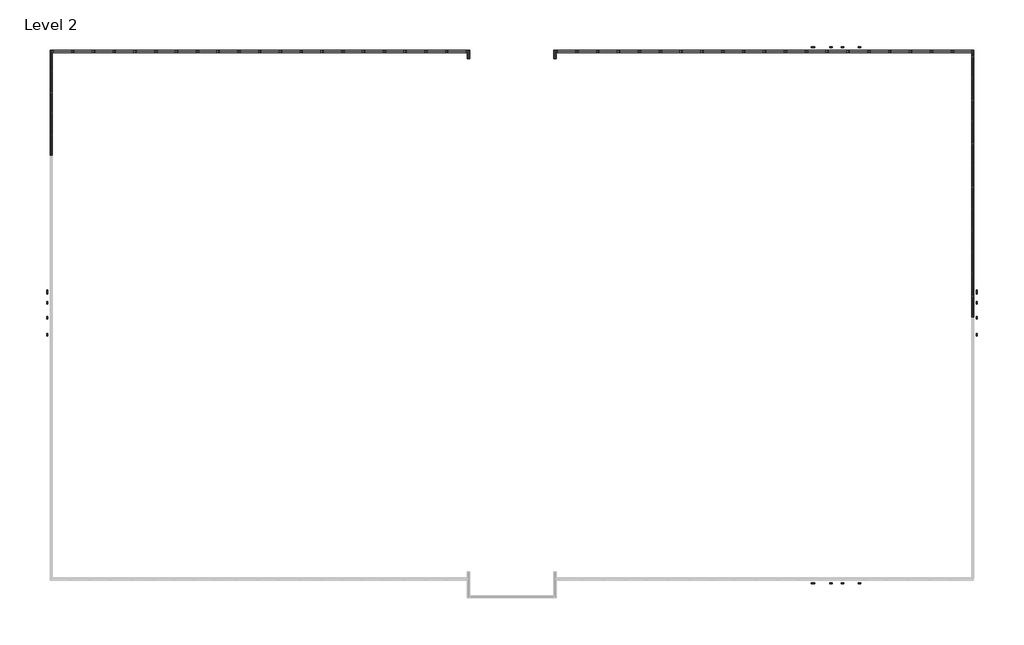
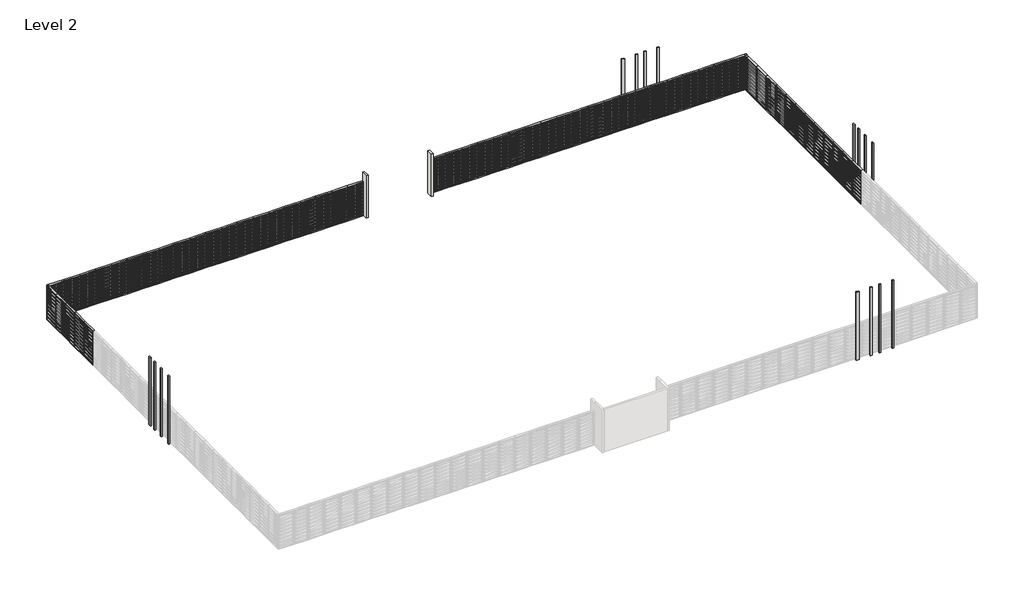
# One storey, part 2 of 2: 58 plates, 16 columns, 2 walls.
"""IFC4 building model written with IfcOpenShell, lengths in millimetres."""

from ifc_helpers import new_model, si_unit, frame, origin, place, context, project, spatial, polyline, outline, extrude, transform, mapped, element, save
from components import curtain_wall_panel_louver_20805_curtain_wall_panel_louver_34a23a9e, curtain_wall_panel_louver_20805_curtain_wall_panel_louver_e35027b3, curtain_wall_panel_louver_20805_curtain_wall_panel_louver_68f3dc09, curtain_wall_panel_louver_20805_curtain_wall_panel_louver_6bef742d, curtain_wall_panel_louver_20805_curtain_wall_panel_louver_6c5e9791

model = new_model("IFC4")

# Units and contexts
model_context = context("Model", 3, world=origin())
ifc_project = project(units=[si_unit("LENGTHUNIT", "METRE", prefix="MILLI")], contexts=[model_context])

# Site, building, storey
site = spatial("IfcSite", under=ifc_project)
building = spatial("IfcBuilding", under=site)
storey = spatial("IfcBuildingStorey", under=building, Name="Level 2", Elevation=6800.0)

# Columns
placement = place(None, origin())
element("IfcColumn", 1, ObjectType="Columns_Rectangular : 200x200", at=placement, inside=storey, context=model_context, shape_type="SweptSolid", body=[
    extrude(outline(polyline([(-90259.8408447, -12768.4199596), (-90259.8408447, -12968.4199596), (-90359.8408447, -12968.4199596), (-90359.8408447, -12768.4199596), (-90259.8408447, -12768.4199596)])), frame((0.0, 0.0, 5800.0), z_axis=(0.0, 0.0, 1.0), x_axis=(1.0, 0.0, 0.0)), (0.0, 0.0, 1.0), 8000.0),
])
element("IfcColumn", 2, ObjectType="Columns_Rectangular : 200x200", at=placement, inside=storey, context=model_context, shape_type="SweptSolid", body=[
    extrude(outline(polyline([(-90259.8408447, -15468.4199596), (-90259.8408447, -15668.4199596), (-90359.8408447, -15668.4199596), (-90359.8408447, -15468.4199596), (-90259.8408447, -15468.4199596)])), frame((0.0, 0.0, 5800.0), z_axis=(0.0, 0.0, 1.0), x_axis=(1.0, 0.0, 0.0)), (0.0, 0.0, 1.0), 8000.0),
])
element("IfcColumn", 3, ObjectType="Columns_Rectangular : 200x200", at=placement, inside=storey, context=model_context, shape_type="SweptSolid", body=[
    extrude(outline(polyline([(-12200.7705062, -12768.4199596), (-12100.7705062, -12768.4199596), (-12100.7705062, -12968.4199596), (-12200.7705062, -12968.4199596), (-12200.7705062, -12768.4199596)])), frame((0.0, 0.0, 5800.0), z_axis=(0.0, 0.0, 1.0), x_axis=(1.0, 0.0, 0.0)), (0.0, 0.0, 1.0), 8000.0),
])
element("IfcColumn", 4, ObjectType="Columns_Rectangular : 200x200", at=placement, inside=storey, context=model_context, shape_type="SweptSolid", body=[
    extrude(outline(polyline([(-12200.7705062, -15468.4199596), (-12100.7705062, -15468.4199596), (-12100.7705062, -15668.4199596), (-12200.7705062, -15668.4199596), (-12200.7705062, -15468.4199596)])), frame((0.0, 0.0, 5800.0), z_axis=(0.0, 0.0, 1.0), x_axis=(1.0, 0.0, 0.0)), (0.0, 0.0, 1.0), 8000.0),
])
element("IfcColumn", 5, ObjectType="Columns_Rectangular : 200x200", at=placement, inside=storey, context=model_context, shape_type="SweptSolid", body=[
    extrude(outline(polyline([(-24516.5322209, -36408.8343034), (-24316.5322209, -36408.8343034), (-24316.5322209, -36508.8343034), (-24516.5322209, -36508.8343034), (-24516.5322209, -36408.8343034)])), frame((0.0, 0.0, 5800.0), z_axis=(0.0, 0.0, 1.0), x_axis=(1.0, 0.0, 0.0)), (0.0, 0.0, 1.0), 8000.0),
])
element("IfcColumn", 6, ObjectType="Columns_Rectangular : 200x200", at=placement, inside=storey, context=model_context, shape_type="SweptSolid", body=[
    extrude(outline(polyline([(-22116.5322209, -36408.8343034), (-21916.5322209, -36408.8343034), (-21916.5322209, -36508.8343034), (-22116.5322209, -36508.8343034), (-22116.5322209, -36408.8343034)])), frame((0.0, 0.0, 5800.0), z_axis=(0.0, 0.0, 1.0), x_axis=(1.0, 0.0, 0.0)), (0.0, 0.0, 1.0), 8000.0),
])
element("IfcColumn", 7, ObjectType="Columns_Rectangular : 200x200", at=placement, inside=storey, context=model_context, shape_type="SweptSolid", body=[
    extrude(outline(polyline([(-24516.5322209, 8596.9943842), (-24516.5322209, 8696.9943842), (-24316.5322209, 8696.9943842), (-24316.5322209, 8596.9943842), (-24516.5322209, 8596.9943842)])), frame((0.0, 0.0, 5800.0), z_axis=(0.0, 0.0, 1.0), x_axis=(1.0, 0.0, 0.0)), (0.0, 0.0, 1.0), 8000.0),
])
element("IfcColumn", 8, ObjectType="Columns_Rectangular : 200x200", at=placement, inside=storey, context=model_context, shape_type="SweptSolid", body=[
    extrude(outline(polyline([(-22116.5322209, 8596.9943842), (-22116.5322209, 8696.9943842), (-21916.5322209, 8696.9943842), (-21916.5322209, 8596.9943842), (-22116.5322209, 8596.9943842)])), frame((0.0, 0.0, 5800.0), z_axis=(0.0, 0.0, 1.0), x_axis=(1.0, 0.0, 0.0)), (0.0, 0.0, 1.0), 8000.0),
])
element("IfcColumn", 9, ObjectType="Columns_Rectangular : 200x200 white", at=placement, inside=storey, context=model_context, shape_type="SweptSolid", body=[
    extrude(outline(polyline([(-90259.8408447, -14024.7842807), (-90259.8408447, -14224.7842807), (-90359.8408447, -14224.7842807), (-90359.8408447, -14024.7842807), (-90259.8408447, -14024.7842807)])), frame((0.0, 0.0, 5800.0), z_axis=(0.0, 0.0, 1.0), x_axis=(1.0, 0.0, 0.0)), (0.0, 0.0, 1.0), 8000.0),
])
element("IfcColumn", 10, ObjectType="Columns_Rectangular : 200x200 white", at=placement, inside=storey, context=model_context, shape_type="SweptSolid", body=[
    extrude(outline(polyline([(-12200.7705062, -14024.7842807), (-12100.7705062, -14024.7842807), (-12100.7705062, -14224.7842807), (-12200.7705062, -14224.7842807), (-12200.7705062, -14024.7842807)])), frame((0.0, 0.0, 5800.0), z_axis=(0.0, 0.0, 1.0), x_axis=(1.0, 0.0, 0.0)), (0.0, 0.0, 1.0), 8000.0),
])
element("IfcColumn", 11, ObjectType="Columns_Rectangular : 200x200 white", at=placement, inside=storey, context=model_context, shape_type="SweptSolid", body=[
    extrude(outline(polyline([(-23560.1678999, -36408.8343034), (-23360.1678999, -36408.8343034), (-23360.1678999, -36508.8343034), (-23560.1678999, -36508.8343034), (-23560.1678999, -36408.8343034)])), frame((0.0, 0.0, 5800.0), z_axis=(0.0, 0.0, 1.0), x_axis=(1.0, 0.0, 0.0)), (0.0, 0.0, 1.0), 8000.0),
])
element("IfcColumn", 12, ObjectType="Columns_Rectangular : 200x200 white", at=placement, inside=storey, context=model_context, shape_type="SweptSolid", body=[
    extrude(outline(polyline([(-23560.1678999, 8596.9943842), (-23560.1678999, 8696.9943842), (-23360.1678999, 8696.9943842), (-23360.1678999, 8596.9943842), (-23560.1678999, 8596.9943842)])), frame((0.0, 0.0, 5800.0), z_axis=(0.0, 0.0, 1.0), x_axis=(1.0, 0.0, 0.0)), (0.0, 0.0, 1.0), 8000.0),
])
element("IfcColumn", 13, ObjectType="Columns_Rectangular : 300x300", at=placement, inside=storey, context=model_context, shape_type="SweptSolid", body=[
    extrude(outline(polyline([(-90259.8408447, -11808.892235), (-90259.8408447, -12108.892235), (-90359.8408447, -12108.892235), (-90359.8408447, -11808.892235), (-90259.8408447, -11808.892235)])), frame((0.0, 0.0, 5800.0), z_axis=(0.0, 0.0, 1.0), x_axis=(1.0, 0.0, 0.0)), (0.0, 0.0, 1.0), 8000.0),
])
element("IfcColumn", 14, ObjectType="Columns_Rectangular : 300x300", at=placement, inside=storey, context=model_context, shape_type="SweptSolid", body=[
    extrude(outline(polyline([(-12200.7705062, -11808.892235), (-12100.7705062, -11808.892235), (-12100.7705062, -12108.892235), (-12200.7705062, -12108.892235), (-12200.7705062, -11808.892235)])), frame((0.0, 0.0, 5800.0), z_axis=(0.0, 0.0, 1.0), x_axis=(1.0, 0.0, 0.0)), (0.0, 0.0, 1.0), 8000.0),
])
element("IfcColumn", 15, ObjectType="Columns_Rectangular : 300x300", at=placement, inside=storey, context=model_context, shape_type="SweptSolid", body=[
    extrude(outline(polyline([(-26076.0599455, -36408.8343034), (-25776.0599455, -36408.8343034), (-25776.0599455, -36508.8343034), (-26076.0599455, -36508.8343034), (-26076.0599455, -36408.8343034)])), frame((0.0, 0.0, 5800.0), z_axis=(0.0, 0.0, 1.0), x_axis=(1.0, 0.0, 0.0)), (0.0, 0.0, 1.0), 8000.0),
])
element("IfcColumn", 16, ObjectType="Columns_Rectangular : 300x300", at=placement, inside=storey, context=model_context, shape_type="SweptSolid", body=[
    extrude(outline(polyline([(-26076.0599455, 8596.9943842), (-26076.0599455, 8696.9943842), (-25776.0599455, 8696.9943842), (-25776.0599455, 8596.9943842), (-26076.0599455, 8596.9943842)])), frame((0.0, 0.0, 5800.0), z_axis=(0.0, 0.0, 1.0), x_axis=(1.0, 0.0, 0.0)), (0.0, 0.0, 1.0), 8000.0),
])

# Plates
curtain_wall_panel_louver_20805_curtain_wall_panel_louver_shape = curtain_wall_panel_louver_20805_curtain_wall_panel_louver_34a23a9e(model_context)
element("IfcPlate", 17, ObjectType="Curtain_wall_panel_-_Louver_20805 : Curtain_wall_panel_-_Louver_20805", at=placement, inside=storey, context=model_context, shape_type="MappedRepresentation", body=[
    mapped(curtain_wall_panel_louver_20805_curtain_wall_panel_louver_shape, transform((-12400.7705062, -13173.6699593, 5800.0), x_axis=(0.0, 1.0, 0.0), y_axis=(-1.0, 0.0, 0.0), z_axis=(0.0, 0.0, 1.0))),
])
element("IfcPlate", 18, ObjectType="Curtain_wall_panel_-_Louver_20805 : Curtain_wall_panel_-_Louver_20805", at=placement, inside=storey, context=model_context, shape_type="MappedRepresentation", body=[
    mapped(curtain_wall_panel_louver_20805_curtain_wall_panel_louver_shape, transform((-12400.7705062, -11343.6699593, 5800.0), x_axis=(0.0, 1.0, 0.0), y_axis=(-1.0, 0.0, 0.0), z_axis=(0.0, 0.0, 1.0))),
])
element("IfcPlate", 19, ObjectType="Curtain_wall_panel_-_Louver_20805 : Curtain_wall_panel_-_Louver_20805", at=placement, inside=storey, context=model_context, shape_type="MappedRepresentation", body=[
    mapped(curtain_wall_panel_louver_20805_curtain_wall_panel_louver_shape, transform((-12400.7705062, -9513.6699593, 5800.0), x_axis=(0.0, 1.0, 0.0), y_axis=(-1.0, 0.0, 0.0), z_axis=(0.0, 0.0, 1.0))),
])
element("IfcPlate", 20, ObjectType="Curtain_wall_panel_-_Louver_20805 : Curtain_wall_panel_-_Louver_20805", at=placement, inside=storey, context=model_context, shape_type="MappedRepresentation", body=[
    mapped(curtain_wall_panel_louver_20805_curtain_wall_panel_louver_shape, transform((-12400.7705062, -7683.6699593, 5800.0), x_axis=(0.0, 1.0, 0.0), y_axis=(-1.0, 0.0, 0.0), z_axis=(0.0, 0.0, 1.0))),
])
element("IfcPlate", 21, ObjectType="Curtain_wall_panel_-_Louver_20805 : Curtain_wall_panel_-_Louver_20805", at=placement, inside=storey, context=model_context, shape_type="MappedRepresentation", body=[
    mapped(curtain_wall_panel_louver_20805_curtain_wall_panel_louver_shape, transform((-12400.7705062, -5853.6699593, 5800.0), x_axis=(0.0, 1.0, 0.0), y_axis=(-1.0, 0.0, 0.0), z_axis=(0.0, 0.0, 1.0))),
])
element("IfcPlate", 22, ObjectType="Curtain_wall_panel_-_Louver_20805 : Curtain_wall_panel_-_Louver_20805", at=placement, inside=storey, context=model_context, shape_type="MappedRepresentation", body=[
    mapped(curtain_wall_panel_louver_20805_curtain_wall_panel_louver_shape, transform((-12400.7705062, -4023.6699593, 5800.0), x_axis=(0.0, 1.0, 0.0), y_axis=(-1.0, 0.0, 0.0), z_axis=(0.0, 0.0, 1.0))),
])
element("IfcPlate", 23, ObjectType="Curtain_wall_panel_-_Louver_20805 : Curtain_wall_panel_-_Louver_20805", at=placement, inside=storey, context=model_context, shape_type="MappedRepresentation", body=[
    mapped(curtain_wall_panel_louver_20805_curtain_wall_panel_louver_shape, transform((-12400.7705062, -2193.6699593, 5800.0), x_axis=(0.0, 1.0, 0.0), y_axis=(-1.0, 0.0, 0.0), z_axis=(0.0, 0.0, 1.0))),
])
element("IfcPlate", 24, ObjectType="Curtain_wall_panel_-_Louver_20805 : Curtain_wall_panel_-_Louver_20805", at=placement, inside=storey, context=model_context, shape_type="MappedRepresentation", body=[
    mapped(curtain_wall_panel_louver_20805_curtain_wall_panel_louver_shape, transform((-12400.7705062, -363.6699593, 5800.0), x_axis=(0.0, 1.0, 0.0), y_axis=(-1.0, 0.0, 0.0), z_axis=(0.0, 0.0, 1.0))),
])
element("IfcPlate", 25, ObjectType="Curtain_wall_panel_-_Louver_20805 : Curtain_wall_panel_-_Louver_20805", at=placement, inside=storey, context=model_context, shape_type="MappedRepresentation", body=[
    mapped(curtain_wall_panel_louver_20805_curtain_wall_panel_louver_shape, transform((-12400.7705062, 1466.3300407, 5800.0), x_axis=(0.0, 1.0, 0.0), y_axis=(-1.0, 0.0, 0.0), z_axis=(0.0, 0.0, 1.0))),
])
element("IfcPlate", 26, ObjectType="Curtain_wall_panel_-_Louver_20805 : Curtain_wall_panel_-_Louver_20805", at=placement, inside=storey, context=model_context, shape_type="MappedRepresentation", body=[
    mapped(curtain_wall_panel_louver_20805_curtain_wall_panel_louver_shape, transform((-12400.7705062, 3296.3300407, 5800.0), x_axis=(0.0, 1.0, 0.0), y_axis=(-1.0, 0.0, 0.0), z_axis=(0.0, 0.0, 1.0))),
])
element("IfcPlate", 27, ObjectType="Curtain_wall_panel_-_Louver_20805 : Curtain_wall_panel_-_Louver_20805", at=placement, inside=storey, context=model_context, shape_type="MappedRepresentation", body=[
    mapped(curtain_wall_panel_louver_20805_curtain_wall_panel_louver_shape, transform((-12400.7705062, 5126.3300407, 5800.0), x_axis=(0.0, 1.0, 0.0), y_axis=(-1.0, 0.0, 0.0), z_axis=(0.0, 0.0, 1.0))),
])
element("IfcPlate", 28, ObjectType="Curtain_wall_panel_-_Louver_20805 : Curtain_wall_panel_-_Louver_20805", at=placement, inside=storey, context=model_context, shape_type="MappedRepresentation", body=[
    mapped(curtain_wall_panel_louver_20805_curtain_wall_panel_louver_shape, transform((-12400.7705062, 6956.3300407, 5800.0), x_axis=(0.0, 1.0, 0.0), y_axis=(-1.0, 0.0, 0.0), z_axis=(0.0, 0.0, 1.0))),
])
curtain_wall_panel_louver_20805_curtain_wall_panel_louver_2_shape = curtain_wall_panel_louver_20805_curtain_wall_panel_louver_e35027b3(model_context)
element("IfcPlate", 29, ObjectType="Curtain_wall_panel_-_Louver_20805 : Curtain_wall_panel_-_Louver_20805", at=placement, inside=storey, context=model_context, shape_type="MappedRepresentation", body=[
    mapped(curtain_wall_panel_louver_20805_curtain_wall_panel_louver_2_shape, transform((-12400.7705062, 8132.7050405, 5800.0), x_axis=(0.0, 1.0, 0.0), y_axis=(-1.0, 0.0, 0.0), z_axis=(0.0, 0.0, 1.0))),
])
curtain_wall_panel_louver_20805_curtain_wall_panel_louver_3_shape = curtain_wall_panel_louver_20805_curtain_wall_panel_louver_68f3dc09(model_context)
element("IfcPlate", 30, ObjectType="Curtain_wall_panel_-_Louver_20805 : Curtain_wall_panel_-_Louver_20805", at=placement, inside=storey, context=model_context, shape_type="MappedRepresentation", body=[
    mapped(curtain_wall_panel_louver_20805_curtain_wall_panel_louver_3_shape, transform((-90059.8408447, 394.3850404, 5800.0), x_axis=(0.0, 1.0, 0.0), y_axis=(-1.0, 0.0, 0.0), z_axis=(0.0, 0.0, 1.0))),
])
element("IfcPlate", 31, ObjectType="Curtain_wall_panel_-_Louver_20805 : Curtain_wall_panel_-_Louver_20805", at=placement, inside=storey, context=model_context, shape_type="MappedRepresentation", body=[
    mapped(curtain_wall_panel_louver_20805_curtain_wall_panel_louver_3_shape, transform((-90059.8408447, 2172.0950404, 5800.0), x_axis=(0.0, 1.0, 0.0), y_axis=(-1.0, 0.0, 0.0), z_axis=(0.0, 0.0, 1.0))),
])
element("IfcPlate", 32, ObjectType="Curtain_wall_panel_-_Louver_20805 : Curtain_wall_panel_-_Louver_20805", at=placement, inside=storey, context=model_context, shape_type="MappedRepresentation", body=[
    mapped(curtain_wall_panel_louver_20805_curtain_wall_panel_louver_3_shape, transform((-90059.8408447, 3949.8050404, 5800.0), x_axis=(0.0, 1.0, 0.0), y_axis=(-1.0, 0.0, 0.0), z_axis=(0.0, 0.0, 1.0))),
])
element("IfcPlate", 33, ObjectType="Curtain_wall_panel_-_Louver_20805 : Curtain_wall_panel_-_Louver_20805", at=placement, inside=storey, context=model_context, shape_type="MappedRepresentation", body=[
    mapped(curtain_wall_panel_louver_20805_curtain_wall_panel_louver_3_shape, transform((-90059.8408447, 5727.5150404, 5800.0), x_axis=(0.0, 1.0, 0.0), y_axis=(-1.0, 0.0, 0.0), z_axis=(0.0, 0.0, 1.0))),
])
element("IfcPlate", 34, ObjectType="Curtain_wall_panel_-_Louver_20805 : Curtain_wall_panel_-_Louver_20805", at=placement, inside=storey, context=model_context, shape_type="MappedRepresentation", body=[
    mapped(curtain_wall_panel_louver_20805_curtain_wall_panel_louver_3_shape, transform((-90059.8408447, 7505.2250404, 5800.0), x_axis=(0.0, 1.0, 0.0), y_axis=(-1.0, 0.0, 0.0), z_axis=(0.0, 0.0, 1.0))),
])
curtain_wall_panel_louver_20805_curtain_wall_panel_louver_4_shape = curtain_wall_panel_louver_20805_curtain_wall_panel_louver_6bef742d(model_context)
element("IfcPlate", 35, ObjectType="Curtain_wall_panel_-_Louver_20805 : Curtain_wall_panel_-_Louver_20805", at=placement, inside=storey, context=model_context, shape_type="MappedRepresentation", body=[
    mapped(curtain_wall_panel_louver_20805_curtain_wall_panel_louver_4_shape, transform((-89029.3524655, 8394.0800404, 5800.0), x_axis=(1.0, 0.0, 0.0), y_axis=(0.0, 1.0, 0.0), z_axis=(0.0, 0.0, 1.0))),
])
element("IfcPlate", 36, ObjectType="Curtain_wall_panel_-_Louver_20805 : Curtain_wall_panel_-_Louver_20805", at=placement, inside=storey, context=model_context, shape_type="MappedRepresentation", body=[
    mapped(curtain_wall_panel_louver_20805_curtain_wall_panel_louver_4_shape, transform((-87282.875707, 8394.0800404, 5800.0), x_axis=(1.0, 0.0, 0.0), y_axis=(0.0, 1.0, 0.0), z_axis=(0.0, 0.0, 1.0))),
])
element("IfcPlate", 37, ObjectType="Curtain_wall_panel_-_Louver_20805 : Curtain_wall_panel_-_Louver_20805", at=placement, inside=storey, context=model_context, shape_type="MappedRepresentation", body=[
    mapped(curtain_wall_panel_louver_20805_curtain_wall_panel_louver_4_shape, transform((-85536.3989486, 8394.0800404, 5800.0), x_axis=(1.0, 0.0, 0.0), y_axis=(0.0, 1.0, 0.0), z_axis=(0.0, 0.0, 1.0))),
])
element("IfcPlate", 38, ObjectType="Curtain_wall_panel_-_Louver_20805 : Curtain_wall_panel_-_Louver_20805", at=placement, inside=storey, context=model_context, shape_type="MappedRepresentation", body=[
    mapped(curtain_wall_panel_louver_20805_curtain_wall_panel_louver_4_shape, transform((-83789.9221901, 8394.0800404, 5800.0), x_axis=(1.0, 0.0, 0.0), y_axis=(0.0, 1.0, 0.0), z_axis=(0.0, 0.0, 1.0))),
])
element("IfcPlate", 39, ObjectType="Curtain_wall_panel_-_Louver_20805 : Curtain_wall_panel_-_Louver_20805", at=placement, inside=storey, context=model_context, shape_type="MappedRepresentation", body=[
    mapped(curtain_wall_panel_louver_20805_curtain_wall_panel_louver_4_shape, transform((-82043.4454316, 8394.0800404, 5800.0), x_axis=(1.0, 0.0, 0.0), y_axis=(0.0, 1.0, 0.0), z_axis=(0.0, 0.0, 1.0))),
])
element("IfcPlate", 40, ObjectType="Curtain_wall_panel_-_Louver_20805 : Curtain_wall_panel_-_Louver_20805", at=placement, inside=storey, context=model_context, shape_type="MappedRepresentation", body=[
    mapped(curtain_wall_panel_louver_20805_curtain_wall_panel_louver_4_shape, transform((-80296.9686732, 8394.0800404, 5800.0), x_axis=(1.0, 0.0, 0.0), y_axis=(0.0, 1.0, 0.0), z_axis=(0.0, 0.0, 1.0))),
])
element("IfcPlate", 41, ObjectType="Curtain_wall_panel_-_Louver_20805 : Curtain_wall_panel_-_Louver_20805", at=placement, inside=storey, context=model_context, shape_type="MappedRepresentation", body=[
    mapped(curtain_wall_panel_louver_20805_curtain_wall_panel_louver_4_shape, transform((-78550.4919147, 8394.0800404, 5800.0), x_axis=(1.0, 0.0, 0.0), y_axis=(0.0, 1.0, 0.0), z_axis=(0.0, 0.0, 1.0))),
])
element("IfcPlate", 42, ObjectType="Curtain_wall_panel_-_Louver_20805 : Curtain_wall_panel_-_Louver_20805", at=placement, inside=storey, context=model_context, shape_type="MappedRepresentation", body=[
    mapped(curtain_wall_panel_louver_20805_curtain_wall_panel_louver_4_shape, transform((-76804.0151563, 8394.0800404, 5800.0), x_axis=(1.0, 0.0, 0.0), y_axis=(0.0, 1.0, 0.0), z_axis=(0.0, 0.0, 1.0))),
])
element("IfcPlate", 43, ObjectType="Curtain_wall_panel_-_Louver_20805 : Curtain_wall_panel_-_Louver_20805", at=placement, inside=storey, context=model_context, shape_type="MappedRepresentation", body=[
    mapped(curtain_wall_panel_louver_20805_curtain_wall_panel_louver_4_shape, transform((-75057.5383978, 8394.0800404, 5800.0), x_axis=(1.0, 0.0, 0.0), y_axis=(0.0, 1.0, 0.0), z_axis=(0.0, 0.0, 1.0))),
])
element("IfcPlate", 44, ObjectType="Curtain_wall_panel_-_Louver_20805 : Curtain_wall_panel_-_Louver_20805", at=placement, inside=storey, context=model_context, shape_type="MappedRepresentation", body=[
    mapped(curtain_wall_panel_louver_20805_curtain_wall_panel_louver_4_shape, transform((-73311.0616393, 8394.0800404, 5800.0), x_axis=(1.0, 0.0, 0.0), y_axis=(0.0, 1.0, 0.0), z_axis=(0.0, 0.0, 1.0))),
])
element("IfcPlate", 45, ObjectType="Curtain_wall_panel_-_Louver_20805 : Curtain_wall_panel_-_Louver_20805", at=placement, inside=storey, context=model_context, shape_type="MappedRepresentation", body=[
    mapped(curtain_wall_panel_louver_20805_curtain_wall_panel_louver_4_shape, transform((-71564.5848809, 8394.0800404, 5800.0), x_axis=(1.0, 0.0, 0.0), y_axis=(0.0, 1.0, 0.0), z_axis=(0.0, 0.0, 1.0))),
])
element("IfcPlate", 46, ObjectType="Curtain_wall_panel_-_Louver_20805 : Curtain_wall_panel_-_Louver_20805", at=placement, inside=storey, context=model_context, shape_type="MappedRepresentation", body=[
    mapped(curtain_wall_panel_louver_20805_curtain_wall_panel_louver_4_shape, transform((-69818.1081224, 8394.0800404, 5800.0), x_axis=(1.0, 0.0, 0.0), y_axis=(0.0, 1.0, 0.0), z_axis=(0.0, 0.0, 1.0))),
])
element("IfcPlate", 47, ObjectType="Curtain_wall_panel_-_Louver_20805 : Curtain_wall_panel_-_Louver_20805", at=placement, inside=storey, context=model_context, shape_type="MappedRepresentation", body=[
    mapped(curtain_wall_panel_louver_20805_curtain_wall_panel_louver_4_shape, transform((-68071.6313639, 8394.0800404, 5800.0), x_axis=(1.0, 0.0, 0.0), y_axis=(0.0, 1.0, 0.0), z_axis=(0.0, 0.0, 1.0))),
])
element("IfcPlate", 48, ObjectType="Curtain_wall_panel_-_Louver_20805 : Curtain_wall_panel_-_Louver_20805", at=placement, inside=storey, context=model_context, shape_type="MappedRepresentation", body=[
    mapped(curtain_wall_panel_louver_20805_curtain_wall_panel_louver_4_shape, transform((-66325.1546055, 8394.0800404, 5800.0), x_axis=(1.0, 0.0, 0.0), y_axis=(0.0, 1.0, 0.0), z_axis=(0.0, 0.0, 1.0))),
])
element("IfcPlate", 49, ObjectType="Curtain_wall_panel_-_Louver_20805 : Curtain_wall_panel_-_Louver_20805", at=placement, inside=storey, context=model_context, shape_type="MappedRepresentation", body=[
    mapped(curtain_wall_panel_louver_20805_curtain_wall_panel_louver_4_shape, transform((-64578.677847, 8394.0800404, 5800.0), x_axis=(1.0, 0.0, 0.0), y_axis=(0.0, 1.0, 0.0), z_axis=(0.0, 0.0, 1.0))),
])
element("IfcPlate", 50, ObjectType="Curtain_wall_panel_-_Louver_20805 : Curtain_wall_panel_-_Louver_20805", at=placement, inside=storey, context=model_context, shape_type="MappedRepresentation", body=[
    mapped(curtain_wall_panel_louver_20805_curtain_wall_panel_louver_4_shape, transform((-62832.2010885, 8394.0800404, 5800.0), x_axis=(1.0, 0.0, 0.0), y_axis=(0.0, 1.0, 0.0), z_axis=(0.0, 0.0, 1.0))),
])
element("IfcPlate", 51, ObjectType="Curtain_wall_panel_-_Louver_20805 : Curtain_wall_panel_-_Louver_20805", at=placement, inside=storey, context=model_context, shape_type="MappedRepresentation", body=[
    mapped(curtain_wall_panel_louver_20805_curtain_wall_panel_louver_4_shape, transform((-61085.7243301, 8394.0800404, 5800.0), x_axis=(1.0, 0.0, 0.0), y_axis=(0.0, 1.0, 0.0), z_axis=(0.0, 0.0, 1.0))),
])
element("IfcPlate", 52, ObjectType="Curtain_wall_panel_-_Louver_20805 : Curtain_wall_panel_-_Louver_20805", at=placement, inside=storey, context=model_context, shape_type="MappedRepresentation", body=[
    mapped(curtain_wall_panel_louver_20805_curtain_wall_panel_louver_4_shape, transform((-59339.2475716, 8394.0800404, 5800.0), x_axis=(1.0, 0.0, 0.0), y_axis=(0.0, 1.0, 0.0), z_axis=(0.0, 0.0, 1.0))),
])
element("IfcPlate", 53, ObjectType="Curtain_wall_panel_-_Louver_20805 : Curtain_wall_panel_-_Louver_20805", at=placement, inside=storey, context=model_context, shape_type="MappedRepresentation", body=[
    mapped(curtain_wall_panel_louver_20805_curtain_wall_panel_louver_4_shape, transform((-57592.7708131, 8394.0800404, 5800.0), x_axis=(1.0, 0.0, 0.0), y_axis=(0.0, 1.0, 0.0), z_axis=(0.0, 0.0, 1.0))),
])
element("IfcPlate", 54, ObjectType="Curtain_wall_panel_-_Louver_20805 : Curtain_wall_panel_-_Louver_20805", at=placement, inside=storey, context=model_context, shape_type="MappedRepresentation", body=[
    mapped(curtain_wall_panel_louver_20805_curtain_wall_panel_louver_4_shape, transform((-55846.2940547, 8394.0800404, 5800.0), x_axis=(1.0, 0.0, 0.0), y_axis=(0.0, 1.0, 0.0), z_axis=(0.0, 0.0, 1.0))),
])
curtain_wall_panel_louver_20805_curtain_wall_panel_louver_5_shape = curtain_wall_panel_louver_20805_curtain_wall_panel_louver_6c5e9791(model_context)
element("IfcPlate", 55, ObjectType="Curtain_wall_panel_-_Louver_20805 : Curtain_wall_panel_-_Louver_20805", at=placement, inside=storey, context=model_context, shape_type="MappedRepresentation", body=[
    mapped(curtain_wall_panel_louver_20805_curtain_wall_panel_louver_5_shape, transform((-46653.4985462, 8394.0800404, 5800.0), x_axis=(1.0, 0.0, 0.0), y_axis=(0.0, 1.0, 0.0), z_axis=(0.0, 0.0, 1.0))),
])
element("IfcPlate", 56, ObjectType="Curtain_wall_panel_-_Louver_20805 : Curtain_wall_panel_-_Louver_20805", at=placement, inside=storey, context=model_context, shape_type="MappedRepresentation", body=[
    mapped(curtain_wall_panel_louver_20805_curtain_wall_panel_louver_5_shape, transform((-44899.8842878, 8394.0800404, 5800.0), x_axis=(1.0, 0.0, 0.0), y_axis=(0.0, 1.0, 0.0), z_axis=(0.0, 0.0, 1.0))),
])
element("IfcPlate", 57, ObjectType="Curtain_wall_panel_-_Louver_20805 : Curtain_wall_panel_-_Louver_20805", at=placement, inside=storey, context=model_context, shape_type="MappedRepresentation", body=[
    mapped(curtain_wall_panel_louver_20805_curtain_wall_panel_louver_5_shape, transform((-43146.2700293, 8394.0800404, 5800.0), x_axis=(1.0, 0.0, 0.0), y_axis=(0.0, 1.0, 0.0), z_axis=(0.0, 0.0, 1.0))),
])
element("IfcPlate", 58, ObjectType="Curtain_wall_panel_-_Louver_20805 : Curtain_wall_panel_-_Louver_20805", at=placement, inside=storey, context=model_context, shape_type="MappedRepresentation", body=[
    mapped(curtain_wall_panel_louver_20805_curtain_wall_panel_louver_5_shape, transform((-41392.6557708, 8394.0800404, 5800.0), x_axis=(1.0, 0.0, 0.0), y_axis=(0.0, 1.0, 0.0), z_axis=(0.0, 0.0, 1.0))),
])
element("IfcPlate", 59, ObjectType="Curtain_wall_panel_-_Louver_20805 : Curtain_wall_panel_-_Louver_20805", at=placement, inside=storey, context=model_context, shape_type="MappedRepresentation", body=[
    mapped(curtain_wall_panel_louver_20805_curtain_wall_panel_louver_5_shape, transform((-39639.0415124, 8394.0800404, 5800.0), x_axis=(1.0, 0.0, 0.0), y_axis=(0.0, 1.0, 0.0), z_axis=(0.0, 0.0, 1.0))),
])
element("IfcPlate", 60, ObjectType="Curtain_wall_panel_-_Louver_20805 : Curtain_wall_panel_-_Louver_20805", at=placement, inside=storey, context=model_context, shape_type="MappedRepresentation", body=[
    mapped(curtain_wall_panel_louver_20805_curtain_wall_panel_louver_5_shape, transform((-37885.4272539, 8394.0800404, 5800.0), x_axis=(1.0, 0.0, 0.0), y_axis=(0.0, 1.0, 0.0), z_axis=(0.0, 0.0, 1.0))),
])
element("IfcPlate", 61, ObjectType="Curtain_wall_panel_-_Louver_20805 : Curtain_wall_panel_-_Louver_20805", at=placement, inside=storey, context=model_context, shape_type="MappedRepresentation", body=[
    mapped(curtain_wall_panel_louver_20805_curtain_wall_panel_louver_5_shape, transform((-36131.8129954, 8394.0800404, 5800.0), x_axis=(1.0, 0.0, 0.0), y_axis=(0.0, 1.0, 0.0), z_axis=(0.0, 0.0, 1.0))),
])
element("IfcPlate", 62, ObjectType="Curtain_wall_panel_-_Louver_20805 : Curtain_wall_panel_-_Louver_20805", at=placement, inside=storey, context=model_context, shape_type="MappedRepresentation", body=[
    mapped(curtain_wall_panel_louver_20805_curtain_wall_panel_louver_5_shape, transform((-34378.198737, 8394.0800404, 5800.0), x_axis=(1.0, 0.0, 0.0), y_axis=(0.0, 1.0, 0.0), z_axis=(0.0, 0.0, 1.0))),
])
element("IfcPlate", 63, ObjectType="Curtain_wall_panel_-_Louver_20805 : Curtain_wall_panel_-_Louver_20805", at=placement, inside=storey, context=model_context, shape_type="MappedRepresentation", body=[
    mapped(curtain_wall_panel_louver_20805_curtain_wall_panel_louver_5_shape, transform((-32624.5844785, 8394.0800404, 5800.0), x_axis=(1.0, 0.0, 0.0), y_axis=(0.0, 1.0, 0.0), z_axis=(0.0, 0.0, 1.0))),
])
element("IfcPlate", 64, ObjectType="Curtain_wall_panel_-_Louver_20805 : Curtain_wall_panel_-_Louver_20805", at=placement, inside=storey, context=model_context, shape_type="MappedRepresentation", body=[
    mapped(curtain_wall_panel_louver_20805_curtain_wall_panel_louver_5_shape, transform((-30870.97022, 8394.0800404, 5800.0), x_axis=(1.0, 0.0, 0.0), y_axis=(0.0, 1.0, 0.0), z_axis=(0.0, 0.0, 1.0))),
])
element("IfcPlate", 65, ObjectType="Curtain_wall_panel_-_Louver_20805 : Curtain_wall_panel_-_Louver_20805", at=placement, inside=storey, context=model_context, shape_type="MappedRepresentation", body=[
    mapped(curtain_wall_panel_louver_20805_curtain_wall_panel_louver_5_shape, transform((-29117.3559616, 8394.0800404, 5800.0), x_axis=(1.0, 0.0, 0.0), y_axis=(0.0, 1.0, 0.0), z_axis=(0.0, 0.0, 1.0))),
])
element("IfcPlate", 66, ObjectType="Curtain_wall_panel_-_Louver_20805 : Curtain_wall_panel_-_Louver_20805", at=placement, inside=storey, context=model_context, shape_type="MappedRepresentation", body=[
    mapped(curtain_wall_panel_louver_20805_curtain_wall_panel_louver_5_shape, transform((-27363.7417031, 8394.0800404, 5800.0), x_axis=(1.0, 0.0, 0.0), y_axis=(0.0, 1.0, 0.0), z_axis=(0.0, 0.0, 1.0))),
])
element("IfcPlate", 67, ObjectType="Curtain_wall_panel_-_Louver_20805 : Curtain_wall_panel_-_Louver_20805", at=placement, inside=storey, context=model_context, shape_type="MappedRepresentation", body=[
    mapped(curtain_wall_panel_louver_20805_curtain_wall_panel_louver_5_shape, transform((-25610.1274447, 8394.0800404, 5800.0), x_axis=(1.0, 0.0, 0.0), y_axis=(0.0, 1.0, 0.0), z_axis=(0.0, 0.0, 1.0))),
])
element("IfcPlate", 68, ObjectType="Curtain_wall_panel_-_Louver_20805 : Curtain_wall_panel_-_Louver_20805", at=placement, inside=storey, context=model_context, shape_type="MappedRepresentation", body=[
    mapped(curtain_wall_panel_louver_20805_curtain_wall_panel_louver_5_shape, transform((-23856.5131862, 8394.0800404, 5800.0), x_axis=(1.0, 0.0, 0.0), y_axis=(0.0, 1.0, 0.0), z_axis=(0.0, 0.0, 1.0))),
])
element("IfcPlate", 69, ObjectType="Curtain_wall_panel_-_Louver_20805 : Curtain_wall_panel_-_Louver_20805", at=placement, inside=storey, context=model_context, shape_type="MappedRepresentation", body=[
    mapped(curtain_wall_panel_louver_20805_curtain_wall_panel_louver_5_shape, transform((-22102.8989277, 8394.0800404, 5800.0), x_axis=(1.0, 0.0, 0.0), y_axis=(0.0, 1.0, 0.0), z_axis=(0.0, 0.0, 1.0))),
])
element("IfcPlate", 70, ObjectType="Curtain_wall_panel_-_Louver_20805 : Curtain_wall_panel_-_Louver_20805", at=placement, inside=storey, context=model_context, shape_type="MappedRepresentation", body=[
    mapped(curtain_wall_panel_louver_20805_curtain_wall_panel_louver_5_shape, transform((-20349.2846693, 8394.0800404, 5800.0), x_axis=(1.0, 0.0, 0.0), y_axis=(0.0, 1.0, 0.0), z_axis=(0.0, 0.0, 1.0))),
])
element("IfcPlate", 71, ObjectType="Curtain_wall_panel_-_Louver_20805 : Curtain_wall_panel_-_Louver_20805", at=placement, inside=storey, context=model_context, shape_type="MappedRepresentation", body=[
    mapped(curtain_wall_panel_louver_20805_curtain_wall_panel_louver_5_shape, transform((-18595.6704108, 8394.0800404, 5800.0), x_axis=(1.0, 0.0, 0.0), y_axis=(0.0, 1.0, 0.0), z_axis=(0.0, 0.0, 1.0))),
])
element("IfcPlate", 72, ObjectType="Curtain_wall_panel_-_Louver_20805 : Curtain_wall_panel_-_Louver_20805", at=placement, inside=storey, context=model_context, shape_type="MappedRepresentation", body=[
    mapped(curtain_wall_panel_louver_20805_curtain_wall_panel_louver_5_shape, transform((-16842.0561523, 8394.0800404, 5800.0), x_axis=(1.0, 0.0, 0.0), y_axis=(0.0, 1.0, 0.0), z_axis=(0.0, 0.0, 1.0))),
])
element("IfcPlate", 73, ObjectType="Curtain_wall_panel_-_Louver_20805 : Curtain_wall_panel_-_Louver_20805", at=placement, inside=storey, context=model_context, shape_type="MappedRepresentation", body=[
    mapped(curtain_wall_panel_louver_20805_curtain_wall_panel_louver_5_shape, transform((-15088.4418939, 8394.0800404, 5800.0), x_axis=(1.0, 0.0, 0.0), y_axis=(0.0, 1.0, 0.0), z_axis=(0.0, 0.0, 1.0))),
])
element("IfcPlate", 74, ObjectType="Curtain_wall_panel_-_Louver_20805 : Curtain_wall_panel_-_Louver_20805", at=placement, inside=storey, context=model_context, shape_type="MappedRepresentation", body=[
    mapped(curtain_wall_panel_louver_20805_curtain_wall_panel_louver_5_shape, transform((-13334.8276354, 8394.0800404, 5800.0), x_axis=(1.0, 0.0, 0.0), y_axis=(0.0, 1.0, 0.0), z_axis=(0.0, 0.0, 1.0))),
])

# Walls
element("IfcWall", 75, ObjectType="Generic - 200mm", at=placement, inside=storey, context=model_context, shape_type="SweptSolid", body=[
    extrude(outline(polyline([(-54773.0556755, 8394.0800404), (-54773.0556755, 7691.0942415), (-54973.0556755, 7691.0942415), (-54973.0556755, 8394.0800404), (-54773.0556755, 8394.0800404)])), frame((0.0, 0.0, 5800.0), z_axis=(0.0, 0.0, 1.0), x_axis=(1.0, 0.0, 0.0)), (0.0, 0.0, 1.0), 5000.0),
])
element("IfcWall", 76, ObjectType="Generic - 200mm", at=placement, inside=storey, context=model_context, shape_type="SweptSolid", body=[
    extrude(outline(polyline([(-47530.3056755, 8394.0800404), (-47530.3056755, 7691.0942415), (-47730.3056755, 7691.0942415), (-47730.3056755, 8394.0800404), (-47530.3056755, 8394.0800404)])), frame((0.0, 0.0, 5800.0), z_axis=(0.0, 0.0, 1.0), x_axis=(1.0, 0.0, 0.0)), (0.0, 0.0, 1.0), 5000.0),
])

save(model, "model.ifc")
